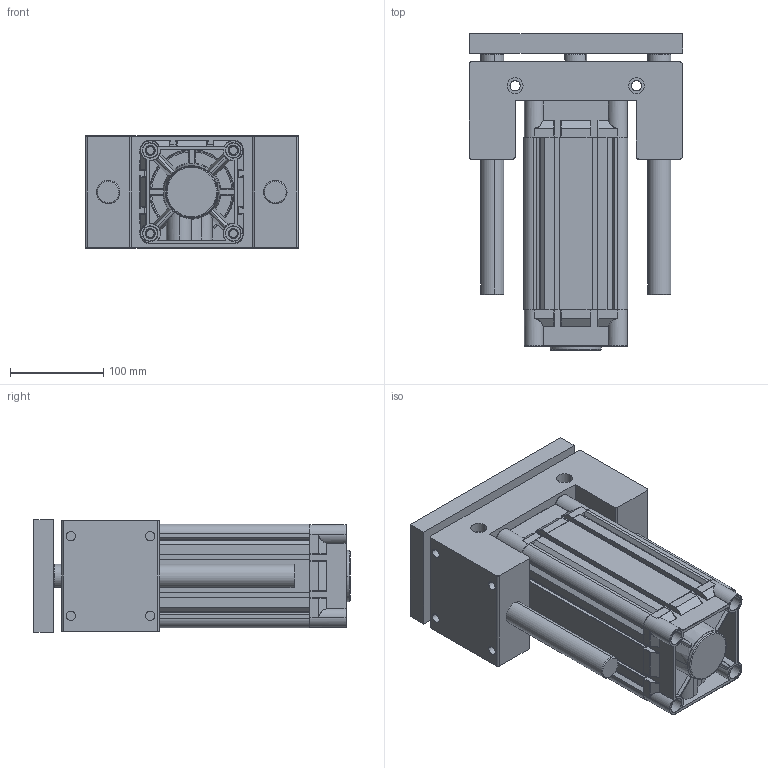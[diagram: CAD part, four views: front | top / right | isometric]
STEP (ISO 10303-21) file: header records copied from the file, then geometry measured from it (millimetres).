
FILE_DESCRIPTION (( 'STEP AP203' ), '1' );
FILE_NAME ('KDNC100X125H-YATAK.STEP', '2016-09-08T07:45:24', ( 'user' ), ( '' ), 'SwSTEP 2.0', 'SolidWorks 2013', '' );
FILE_SCHEMA (( 'CONFIG_CONTROL_DESIGN' ));
Length unit declared in the file: millimetre
Products named in the file (9): 烰 KAPAK  100; PÝSTON MÝLÝ U YATAKLAMA 100x125; KDNC100X125H-YATAK; DNC-U-YATAK 100; DNC-U-YATAK M尳 100X125; DNC-U-YATAK TABLA 100; ARKA KAPAK  100; KDNC 100x125 BORU; ORTA PÝSTON 100
Assembly tree (9 placements, depth 2):
  KDNC100X125H-YATAK
    DNC-U-YATAK 100
    DNC-U-YATAK M尳 100X125  x2
    DNC-U-YATAK TABLA 100
    ARKA KAPAK  100
    KDNC 100x125 BORU
    ORTA PÝSTON 100
    烰 KAPAK  100
    PÝSTON MÝLÝ U YATAKLAMA 100x125
Bounding box: 228.5 x 338.5 x 120.5 mm (x, y, z)
Volume: 3879940.6 mm3; surface area: 724853 mm2
Topology: 9 solids, 9 shells, 1212 faces, 3077 edges, 1949 vertices
Faces by surface type: cylinder 480, plane 406, cone 178, bspline 146, torus 2
Entity records: 50112 total; most frequent: CARTESIAN_POINT 21709, ORIENTED_EDGE 6102, DIRECTION 5134, EDGE_CURVE 3051, VERTEX_POINT 1941, AXIS2_PLACEMENT_3D 1913, EDGE_LOOP 1362, LINE 1308
